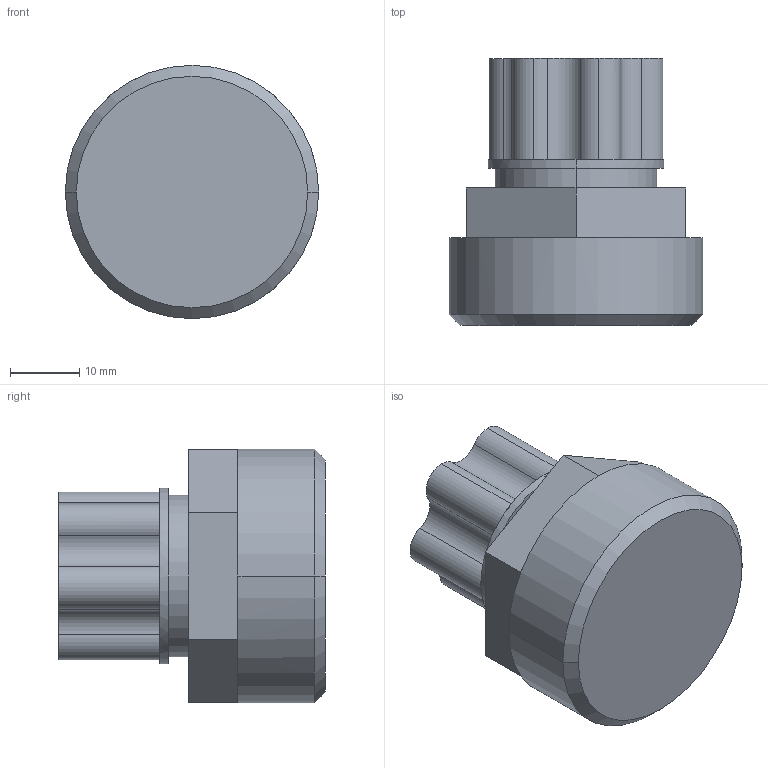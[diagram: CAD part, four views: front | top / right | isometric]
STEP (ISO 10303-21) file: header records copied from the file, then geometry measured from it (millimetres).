
FILE_DESCRIPTION (( 'STEP AP214' ), '1' );
FILE_NAME ('06-synchro-flare-with-top-mount-adapter.STEP', '2012-11-27T23:23:48', ( '' ), ( '' ), 'SwSTEP 2.0', 'SolidWorks 2012', '' );
FILE_SCHEMA (( 'AUTOMOTIVE_DESIGN' ));
Length unit declared in the file: inch
Products named in the file (1): 06-synchro-flare-with-top-mount-adapter
Bounding box: 36.6 x 38.56 x 36.66 mm (x, y, z)
Volume: 26601.1 mm3; surface area: 6092.2 mm2
Topology: 1 solids, 1 shells, 54 faces, 127 edges, 78 vertices
Faces by surface type: plane 29, cylinder 23, cone 2
Entity records: 1642 total; most frequent: DIRECTION 309, CARTESIAN_POINT 260, ORIENTED_EDGE 254, AXIS2_PLACEMENT_3D 127, EDGE_CURVE 127, VERTEX_POINT 78, CIRCLE 72, EDGE_LOOP 57
